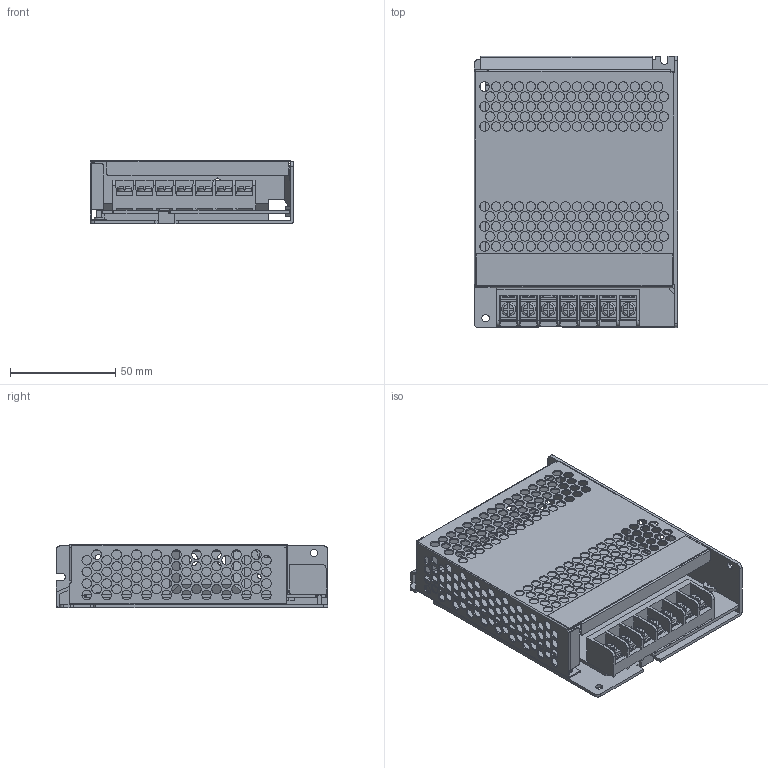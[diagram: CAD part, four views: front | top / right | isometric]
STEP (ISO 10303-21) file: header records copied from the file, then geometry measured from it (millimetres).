
FILE_DESCRIPTION((''),'2;1');
FILE_NAME('ASM000_ASM','2021-01-19T10:21:48',('danae.lavaud'),(''),'CREO PARAMETRIC BY PTC INC, 2018260','CREO PARAMETRIC BY PTC INC, 2018260','');
FILE_SCHEMA(('AUTOMOTIVE_DESIGN { 1 0 10303 214 1 1 1 1 }'));
Products named in the file (19): LABEL_5_1_1; PRT0005_1; CHASSIS-STANDOFF_1_1_1; PWB_100W_32_1_1; 100W_COVER_10_1_1; PRT0006_1; YK1001A1-441_07_27_1_1_1_1; PRT0007_1_1; PRT0007_1_2; PRT0007_1_3; PRT0007_1_4; PRT0007_1_5; PRT0007_1_6; PRT0007_1_7; PRT0007_1_ASM; JIAOZI_32_1_1_1_1; SIMPL_ASM_1_ASM; ABL_PANELMOUNT100W_3DCAD_ASM; ASM000_ASM
Assembly tree (24 placements, depth 5):
  ASM000_ASM
    ABL_PANELMOUNT100W_3DCAD_ASM
      SIMPL_ASM_1_ASM
        LABEL_5_1_1
        PRT0005_1
        CHASSIS-STANDOFF_1_1_1
        PWB_100W_32_1_1
        100W_COVER_10_1_1
        PRT0006_1  x7
        YK1001A1-441_07_27_1_1_1_1
        PRT0007_1_ASM
          PRT0007_1_1
          PRT0007_1_2
          PRT0007_1_3
          PRT0007_1_4
          PRT0007_1_5
          PRT0007_1_6
          PRT0007_1_7
        JIAOZI_32_1_1_1_1
Bounding box: 97 x 129 x 30.1 mm (x, y, z)
Volume: 58560.8 mm3; surface area: 98330.3 mm2
Topology: 21 solids, 21 shells, 1379 faces, 3837 edges, 2491 vertices
Faces by surface type: plane 775, cylinder 586, torus 14, cone 4
Entity records: 43313 total; most frequent: CARTESIAN_POINT 7408, DIRECTION 7358, ORIENTED_EDGE 7098, EDGE_CURVE 3549, AXIS2_PLACEMENT_3D 2490, VECTOR 2378, LINE 2378, VERTEX_POINT 2299
